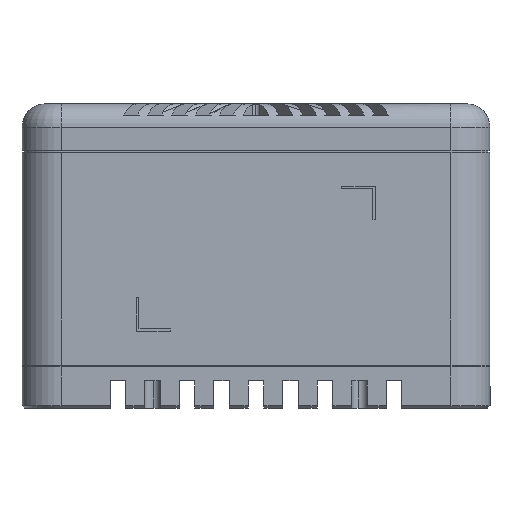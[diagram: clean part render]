
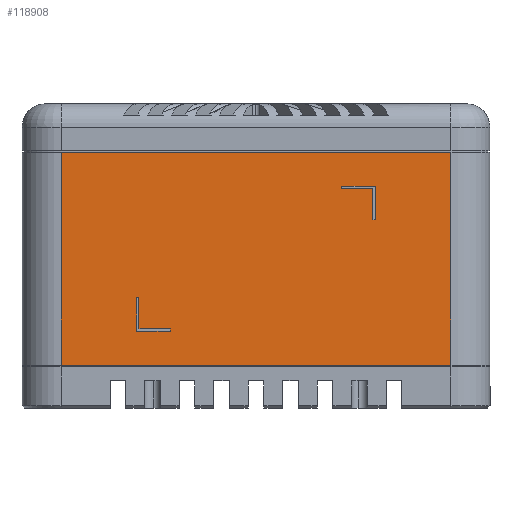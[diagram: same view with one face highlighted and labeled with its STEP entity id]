
A CAD part, left-side view. The second image highlights one B-rep face of the part: STEP entity #118908.
In plain terms, the highlighted planar face has unit normal (-1, 0, 0).
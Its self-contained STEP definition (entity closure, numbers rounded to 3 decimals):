
#574 = LINE ( 'NONE', #39418, #97901 ) ;
#644 = DIRECTION ( 'NONE',  ( 0., -1., 0. ) ) ;
#1262 = CARTESIAN_POINT ( 'NONE',  ( -54., 25., 27.3 ) ) ;
#1479 = LINE ( 'NONE', #156606, #156401 ) ;
#1679 = CARTESIAN_POINT ( 'NONE',  ( -54., 11., 4.65 ) ) ;
#3385 = VERTEX_POINT ( 'NONE', #81984 ) ;
#3481 = EDGE_CURVE ( 'NONE', #22581, #144300, #137642, .T. ) ;
#3901 = DIRECTION ( 'NONE',  ( 0., 0., -1. ) ) ;
#4258 = LINE ( 'NONE', #55776, #9106 ) ;
#4810 = ORIENTED_EDGE ( 'NONE', *, *, #4908, .F. ) ;
#4908 = EDGE_CURVE ( 'NONE', #76475, #11081, #39313, .T. ) ;
#5275 = EDGE_CURVE ( 'NONE', #148195, #76475, #82260, .T. ) ;
#6053 = VECTOR ( 'NONE', #74064, 1000. ) ;
#7989 = EDGE_CURVE ( 'NONE', #138410, #117007, #22769, .T. ) ;
#9106 = VECTOR ( 'NONE', #85106, 1000. ) ;
#11081 = VERTEX_POINT ( 'NONE', #25724 ) ;
#11142 = LINE ( 'NONE', #114015, #109961 ) ;
#12326 = FACE_BOUND ( 'NONE', #87171, .T. ) ;
#13927 = EDGE_LOOP ( 'NONE', ( #16243, #27078, #161906, #61143 ) ) ;
#14004 = DIRECTION ( 'NONE',  ( 0., 1., 0. ) ) ;
#14038 = EDGE_CURVE ( 'NONE', #11081, #22581, #113935, .T. ) ;
#16243 = ORIENTED_EDGE ( 'NONE', *, *, #113605, .F. ) ;
#17933 = CARTESIAN_POINT ( 'NONE',  ( -54., 15., 8.65 ) ) ;
#20533 = CARTESIAN_POINT ( 'NONE',  ( -54., -15., 22.65 ) ) ;
#21670 = LINE ( 'NONE', #33538, #84909 ) ;
#22581 = VERTEX_POINT ( 'NONE', #1679 ) ;
#22769 = LINE ( 'NONE', #63154, #6053 ) ;
#24258 = DIRECTION ( 'NONE',  ( 0., -1., 0. ) ) ;
#25004 = CARTESIAN_POINT ( 'NONE',  ( -54., 15.3, 8.65 ) ) ;
#25724 = CARTESIAN_POINT ( 'NONE',  ( -54., 11., 4.35 ) ) ;
#27078 = ORIENTED_EDGE ( 'NONE', *, *, #48857, .T. ) ;
#33538 = CARTESIAN_POINT ( 'NONE',  ( -54., 25., 22.95 ) ) ;
#36891 = LINE ( 'NONE', #99218, #130933 ) ;
#37162 = ORIENTED_EDGE ( 'NONE', *, *, #123192, .F. ) ;
#37921 = VECTOR ( 'NONE', #163713, 1000. ) ;
#39143 = VECTOR ( 'NONE', #56337, 1000. ) ;
#39313 = LINE ( 'NONE', #62905, #139250 ) ;
#39418 = CARTESIAN_POINT ( 'NONE',  ( -54., 25., 27.5 ) ) ;
#40397 = VERTEX_POINT ( 'NONE', #158486 ) ;
#45965 = VECTOR ( 'NONE', #71152, 1000. ) ;
#46660 = EDGE_LOOP ( 'NONE', ( #53313, #84450, #56879, #72774, #77729, #37162 ) ) ;
#46805 = EDGE_CURVE ( 'NONE', #144300, #145093, #84025, .T. ) ;
#47588 = CARTESIAN_POINT ( 'NONE',  ( -54., -15.3, 22.95 ) ) ;
#48857 = EDGE_CURVE ( 'NONE', #77442, #138410, #574, .T. ) ;
#50050 = CARTESIAN_POINT ( 'NONE',  ( -54., 25., 8.65 ) ) ;
#51111 = CARTESIAN_POINT ( 'NONE',  ( -54., -11., 22.65 ) ) ;
#53313 = ORIENTED_EDGE ( 'NONE', *, *, #143116, .F. ) ;
#55776 = CARTESIAN_POINT ( 'NONE',  ( -54., -11., 27.5 ) ) ;
#56337 = DIRECTION ( 'NONE',  ( 0., 0., 1. ) ) ;
#56575 = EDGE_CURVE ( 'NONE', #145093, #148195, #103071, .T. ) ;
#56879 = ORIENTED_EDGE ( 'NONE', *, *, #156610, .F. ) ;
#58597 = DIRECTION ( 'NONE',  ( 0., 0., 1. ) ) ;
#59435 = VECTOR ( 'NONE', #58597, 1000. ) ;
#59643 = CARTESIAN_POINT ( 'NONE',  ( -54., 15., 27.5 ) ) ;
#60259 = CARTESIAN_POINT ( 'NONE',  ( -54., -15.3, 27.5 ) ) ;
#60473 = VECTOR ( 'NONE', #101392, 1000. ) ;
#61143 = ORIENTED_EDGE ( 'NONE', *, *, #76086, .F. ) ;
#62905 = CARTESIAN_POINT ( 'NONE',  ( -54., 25., 4.35 ) ) ;
#63154 = CARTESIAN_POINT ( 'NONE',  ( -54., 25., 0. ) ) ;
#66062 = AXIS2_PLACEMENT_3D ( 'NONE', #165004, #139751, #14004 ) ;
#71152 = DIRECTION ( 'NONE',  ( 0., -1., 0. ) ) ;
#72774 = ORIENTED_EDGE ( 'NONE', *, *, #113644, .F. ) ;
#72780 = LINE ( 'NONE', #82981, #45965 ) ;
#72995 = DIRECTION ( 'NONE',  ( 0., 1., 0. ) ) ;
#74064 = DIRECTION ( 'NONE',  ( 0., -1., 0. ) ) ;
#75376 = VERTEX_POINT ( 'NONE', #47588 ) ;
#76086 = EDGE_CURVE ( 'NONE', #113175, #117007, #81718, .T. ) ;
#76475 = VERTEX_POINT ( 'NONE', #137992 ) ;
#77442 = VERTEX_POINT ( 'NONE', #1262 ) ;
#77729 = ORIENTED_EDGE ( 'NONE', *, *, #108733, .F. ) ;
#78633 = CARTESIAN_POINT ( 'NONE',  ( -54., -25., 0. ) ) ;
#79734 = ORIENTED_EDGE ( 'NONE', *, *, #3481, .F. ) ;
#81718 = LINE ( 'NONE', #132415, #92480 ) ;
#81984 = CARTESIAN_POINT ( 'NONE',  ( -54., -11., 22.95 ) ) ;
#82260 = LINE ( 'NONE', #84762, #163635 ) ;
#82981 = CARTESIAN_POINT ( 'NONE',  ( -54., 25., 27.3 ) ) ;
#84025 = LINE ( 'NONE', #59643, #39143 ) ;
#84450 = ORIENTED_EDGE ( 'NONE', *, *, #117387, .F. ) ;
#84762 = CARTESIAN_POINT ( 'NONE',  ( -54., 15.3, 27.5 ) ) ;
#84768 = CARTESIAN_POINT ( 'NONE',  ( -54., -25., 27.3 ) ) ;
#84909 = VECTOR ( 'NONE', #72995, 1000. ) ;
#85106 = DIRECTION ( 'NONE',  ( 0., 0., -1. ) ) ;
#87171 = EDGE_LOOP ( 'NONE', ( #91371, #79734, #139932, #4810, #106629, #153998 ) ) ;
#87346 = DIRECTION ( 'NONE',  ( 0., -1., 0. ) ) ;
#89028 = CARTESIAN_POINT ( 'NONE',  ( -54., 15., 4.65 ) ) ;
#89703 = VERTEX_POINT ( 'NONE', #20533 ) ;
#89938 = FACE_BOUND ( 'NONE', #46660, .T. ) ;
#91371 = ORIENTED_EDGE ( 'NONE', *, *, #46805, .F. ) ;
#92480 = VECTOR ( 'NONE', #118901, 1000. ) ;
#97901 = VECTOR ( 'NONE', #142262, 1000. ) ;
#99218 = CARTESIAN_POINT ( 'NONE',  ( -54., 25., 18.65 ) ) ;
#100132 = CARTESIAN_POINT ( 'NONE',  ( -54., -15.3, 18.65 ) ) ;
#101392 = DIRECTION ( 'NONE',  ( 0., 1., 0. ) ) ;
#103071 = LINE ( 'NONE', #50050, #60473 ) ;
#106629 = ORIENTED_EDGE ( 'NONE', *, *, #5275, .F. ) ;
#107273 = CARTESIAN_POINT ( 'NONE',  ( -54., 25., 0. ) ) ;
#108733 = EDGE_CURVE ( 'NONE', #40397, #119975, #36891, .T. ) ;
#109961 = VECTOR ( 'NONE', #165430, 1000. ) ;
#111687 = VECTOR ( 'NONE', #115591, 1000. ) ;
#113175 = VERTEX_POINT ( 'NONE', #84768 ) ;
#113572 = FACE_OUTER_BOUND ( 'NONE', #13927, .T. ) ;
#113605 = EDGE_CURVE ( 'NONE', #77442, #113175, #72780, .T. ) ;
#113644 = EDGE_CURVE ( 'NONE', #119975, #75376, #163864, .T. ) ;
#113935 = LINE ( 'NONE', #126605, #111687 ) ;
#114015 = CARTESIAN_POINT ( 'NONE',  ( -54., -15., 27.5 ) ) ;
#115591 = DIRECTION ( 'NONE',  ( 0., 0., 1. ) ) ;
#117007 = VERTEX_POINT ( 'NONE', #78633 ) ;
#117387 = EDGE_CURVE ( 'NONE', #3385, #142063, #4258, .T. ) ;
#118901 = DIRECTION ( 'NONE',  ( 0., 0., -1. ) ) ;
#118908 = ADVANCED_FACE ( 'NONE', ( #89938, #113572, #12326 ), #152367, .F. ) ;
#119975 = VERTEX_POINT ( 'NONE', #100132 ) ;
#123192 = EDGE_CURVE ( 'NONE', #89703, #40397, #11142, .T. ) ;
#126605 = CARTESIAN_POINT ( 'NONE',  ( -54., 11., 27.5 ) ) ;
#130933 = VECTOR ( 'NONE', #24258, 1000. ) ;
#132415 = CARTESIAN_POINT ( 'NONE',  ( -54., -25., 27.5 ) ) ;
#137642 = LINE ( 'NONE', #149393, #37921 ) ;
#137992 = CARTESIAN_POINT ( 'NONE',  ( -54., 15.3, 4.35 ) ) ;
#138410 = VERTEX_POINT ( 'NONE', #107273 ) ;
#139250 = VECTOR ( 'NONE', #87346, 1000. ) ;
#139751 = DIRECTION ( 'NONE',  ( 1., 0., 0. ) ) ;
#139932 = ORIENTED_EDGE ( 'NONE', *, *, #14038, .F. ) ;
#142063 = VERTEX_POINT ( 'NONE', #51111 ) ;
#142262 = DIRECTION ( 'NONE',  ( 0., 0., -1. ) ) ;
#143116 = EDGE_CURVE ( 'NONE', #142063, #89703, #1479, .T. ) ;
#144300 = VERTEX_POINT ( 'NONE', #89028 ) ;
#145093 = VERTEX_POINT ( 'NONE', #17933 ) ;
#148195 = VERTEX_POINT ( 'NONE', #25004 ) ;
#149393 = CARTESIAN_POINT ( 'NONE',  ( -54., 25., 4.65 ) ) ;
#152367 = PLANE ( 'NONE',  #66062 ) ;
#153998 = ORIENTED_EDGE ( 'NONE', *, *, #56575, .F. ) ;
#156401 = VECTOR ( 'NONE', #644, 1000. ) ;
#156606 = CARTESIAN_POINT ( 'NONE',  ( -54., 25., 22.65 ) ) ;
#156610 = EDGE_CURVE ( 'NONE', #75376, #3385, #21670, .T. ) ;
#158486 = CARTESIAN_POINT ( 'NONE',  ( -54., -15., 18.65 ) ) ;
#161906 = ORIENTED_EDGE ( 'NONE', *, *, #7989, .T. ) ;
#163635 = VECTOR ( 'NONE', #3901, 1000. ) ;
#163713 = DIRECTION ( 'NONE',  ( 0., 1., 0. ) ) ;
#163864 = LINE ( 'NONE', #60259, #59435 ) ;
#165004 = CARTESIAN_POINT ( 'NONE',  ( -54., 25., 27.5 ) ) ;
#165430 = DIRECTION ( 'NONE',  ( 0., 0., -1. ) ) ;
